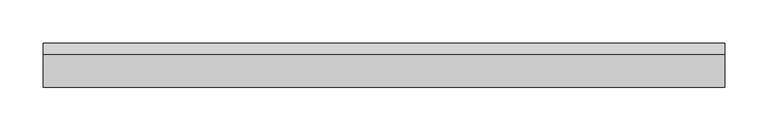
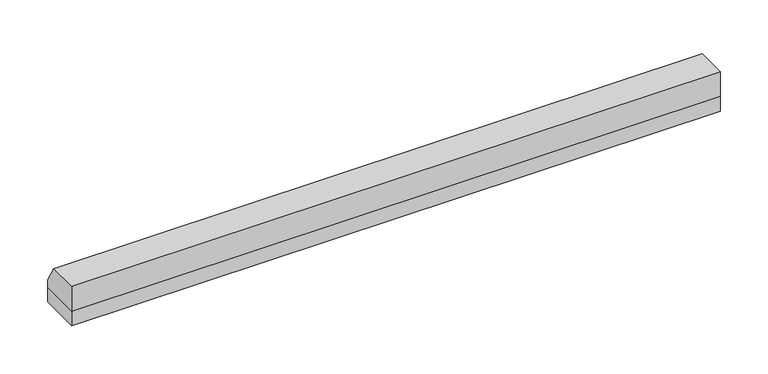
"""IFC4 building model written with IfcOpenShell, lengths in millimetres: proxy geometry, Spinneybeck_ARO Plank 7 : B - 2’-7” x 2” x 1 1/4”."""

from ifc_helpers import new_model, si_unit, frame, origin, origin_with_axes, place, context, project, spatial, polyline, outline, extrude, source, transform, mapped, element, save


def specialty_equipment_1c03680a(model_context):
    return source(origin(), model_context, "Body", "SweptSolid", [
        extrude(outline(polyline([(25.4, 19.05), (-25.4, 19.05), (-25.4, 50.8), (12.4059581, 50.8), (25.4, 28.2936592), (25.4, 19.05)])), frame((-393.7, 0.0, 0.0), z_axis=(1.0, 0.0, 0.0), x_axis=(0.0, 1.0, 0.0)), (0.0, 0.0, 1.0), 787.4),
        extrude(outline(polyline([(-393.7, -25.4), (-393.7, 25.4), (393.7, 25.4), (393.7, -25.4), (-393.7, -25.4)])), origin_with_axes(), (0.0, 0.0, 1.0), 19.05),
    ])


if __name__ == "__main__":
    model = new_model("IFC4")
    model_context = context("Model", 3, world=origin())
    ifc_project = project(units=[si_unit("LENGTHUNIT", "METRE", prefix="MILLI")], contexts=[model_context])
    site = spatial("IfcSite", under=ifc_project)
    building = spatial("IfcBuilding", under=site)
    placement = place(None, origin())
    specialty_equipment_shape = specialty_equipment_1c03680a(model_context)
    element("IfcBuildingElementProxy", 1, Name="Spinneybeck_ARO Plank 7 : B - 2’-7” x 2” x 1 1/4”", ObjectType="Spinneybeck_ARO Plank 7 : B - 2’-7” x 2” x 1 1/4”", at=placement, inside=building, context=model_context, shape_type="MappedRepresentation", body=[
        mapped(specialty_equipment_shape, transform((0.0, 0.0, 0.0), x_axis=(1.0, 0.0, 0.0), y_axis=(0.0, 1.0, 0.0), z_axis=(0.0, 0.0, 1.0))),
    ])
    save(model, "model.ifc")
